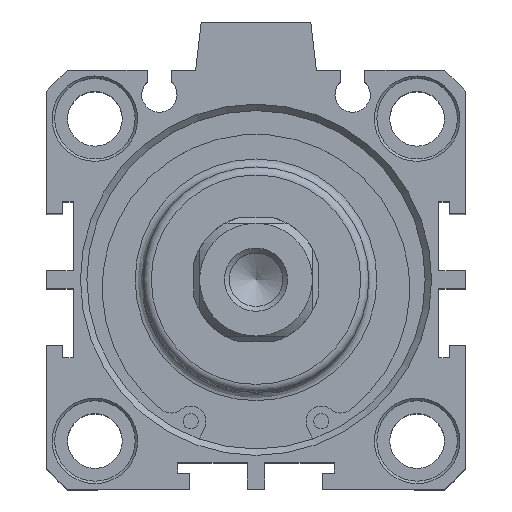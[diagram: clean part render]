
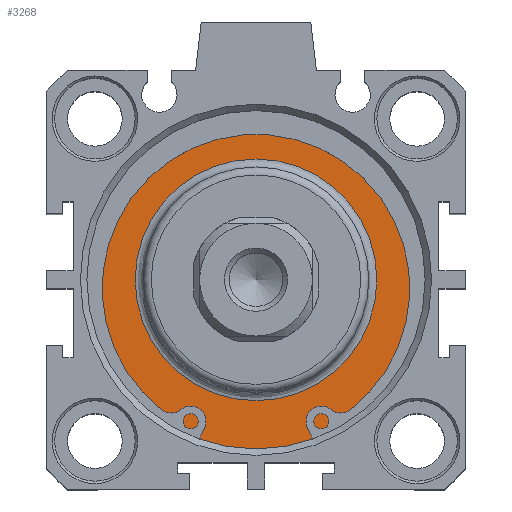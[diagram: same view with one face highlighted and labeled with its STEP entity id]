
A CAD part, top view. The second image highlights one B-rep face of the part: STEP entity #3268.
In plain terms, the highlighted planar face has unit normal (0, 0, 1).
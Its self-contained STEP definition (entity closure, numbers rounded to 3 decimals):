
#3217=CARTESIAN_POINT('',(0.598,16.555,52.4));
#3218=VERTEX_POINT('',#3217);
#3219=CARTESIAN_POINT('',(0.598,1.555,52.4));
#3220=DIRECTION('',(0.0,0.0,1.0));
#3221=DIRECTION('',(0.0,-1.0,0.0));
#3222=AXIS2_PLACEMENT_3D('',#3219,#3220,#3221);
#3223=CIRCLE('',#3222,15.);
#3224=EDGE_CURVE('',#3218,#3218,#3223,.T.);
#3249=CARTESIAN_POINT('',(0.598,19.055,52.4));
#3250=DIRECTION('',(0.0,0.0,1.0));
#3251=DIRECTION('',(1.0,0.0,0.0));
#3252=AXIS2_PLACEMENT_3D('',#3249,#3250,#3251);
#3253=PLANE('',#3252);
#3254=CARTESIAN_POINT('',(0.598,22.555,52.4));
#3255=VERTEX_POINT('',#3254);
#3256=CARTESIAN_POINT('',(0.598,1.555,52.4));
#3257=DIRECTION('',(0.0,0.0,-1.0));
#3258=DIRECTION('',(0.0,1.0,0.0));
#3259=AXIS2_PLACEMENT_3D('',#3256,#3257,#3258);
#3260=CIRCLE('',#3259,21.);
#3261=EDGE_CURVE('',#3255,#3255,#3260,.T.);
#3262=ORIENTED_EDGE('',*,*,#3261,.F.);
#3263=EDGE_LOOP('',(#3262));
#3264=FACE_OUTER_BOUND('',#3263,.T.);
#3265=ORIENTED_EDGE('',*,*,#3224,.F.);
#3266=EDGE_LOOP('',(#3265));
#3267=FACE_BOUND('',#3266,.T.);
#3268=ADVANCED_FACE('',(#3264,#3267),#3253,.T.);
